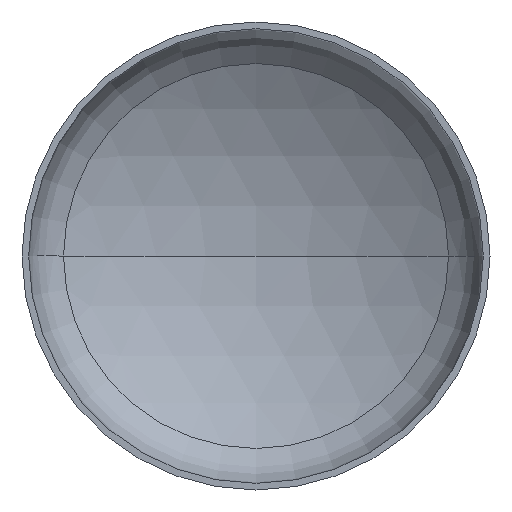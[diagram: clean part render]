
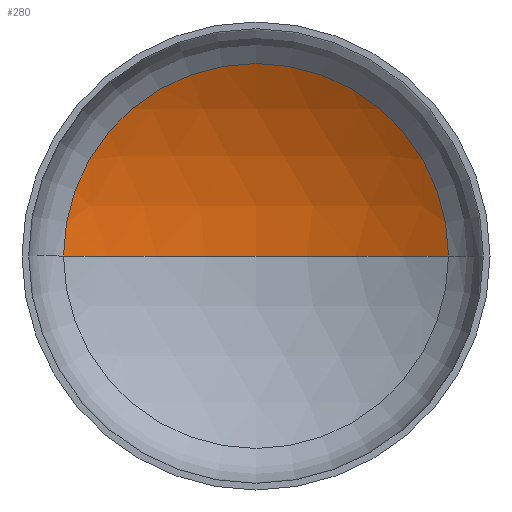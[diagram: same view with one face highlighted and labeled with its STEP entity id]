
A CAD part, front view. The second image highlights one B-rep face of the part: STEP entity #280.
In plain terms, the highlighted spherical face has radius 2560 mm.
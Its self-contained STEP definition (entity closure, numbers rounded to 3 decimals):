
#3 = AXIS2_PLACEMENT_3D ( 'NONE', #117, #126, #187 ) ;
#11 = AXIS2_PLACEMENT_3D ( 'NONE', #380, #37, #407 ) ;
#29 = AXIS2_PLACEMENT_3D ( 'NONE', #148, #149, #363 ) ;
#30 = AXIS2_PLACEMENT_3D ( 'NONE', #175, #164, #159 ) ;
#37 = DIRECTION ( 'NONE',  ( 0., 0., -1. ) ) ;
#61 = EDGE_CURVE ( 'NONE', #406, #370, #101, .T. ) ;
#62 = EDGE_CURVE ( 'NONE', #241, #406, #402, .T. ) ;
#70 = EDGE_LOOP ( 'NONE', ( #213, #163, #360 ) ) ;
#101 = CIRCLE ( 'NONE', #30, 1315.865 ) ;
#117 = CARTESIAN_POINT ( 'NONE',  ( 0., -1635.614, 0. ) ) ;
#125 = CARTESIAN_POINT ( 'NONE',  ( 0., 924.386, 0. ) ) ;
#126 = DIRECTION ( 'NONE',  ( 0., 0., 1. ) ) ;
#146 = SPHERICAL_SURFACE ( 'NONE', #11, 2560. ) ;
#148 = CARTESIAN_POINT ( 'NONE',  ( 0., -1635.614, 0. ) ) ;
#149 = DIRECTION ( 'NONE',  ( 0., 0., -1. ) ) ;
#159 = DIRECTION ( 'NONE',  ( 1., 0., 0. ) ) ;
#163 = ORIENTED_EDGE ( 'NONE', *, *, #62, .T. ) ;
#164 = DIRECTION ( 'NONE',  ( 0., -1., 0. ) ) ;
#175 = CARTESIAN_POINT ( 'NONE',  ( 0., 560.314, 0. ) ) ;
#187 = DIRECTION ( 'NONE',  ( 1., 0., 0. ) ) ;
#213 = ORIENTED_EDGE ( 'NONE', *, *, #340, .F. ) ;
#226 = FACE_OUTER_BOUND ( 'NONE', #70, .T. ) ;
#241 = VERTEX_POINT ( 'NONE', #125 ) ;
#280 = ADVANCED_FACE ( 'NONE', ( #226 ), #146, .F. ) ;
#310 = CARTESIAN_POINT ( 'NONE',  ( -1315.865, 560.314, 0. ) ) ;
#340 = EDGE_CURVE ( 'NONE', #241, #370, #369, .T. ) ;
#360 = ORIENTED_EDGE ( 'NONE', *, *, #61, .T. ) ;
#363 = DIRECTION ( 'NONE',  ( -1., 0., 0. ) ) ;
#369 = CIRCLE ( 'NONE', #3, 2560. ) ;
#370 = VERTEX_POINT ( 'NONE', #310 ) ;
#380 = CARTESIAN_POINT ( 'NONE',  ( 0., -1635.614, 0. ) ) ;
#391 = CARTESIAN_POINT ( 'NONE',  ( 1315.865, 560.314, 0. ) ) ;
#402 = CIRCLE ( 'NONE', #29, 2560. ) ;
#406 = VERTEX_POINT ( 'NONE', #391 ) ;
#407 = DIRECTION ( 'NONE',  ( -1., 0., 0. ) ) ;
